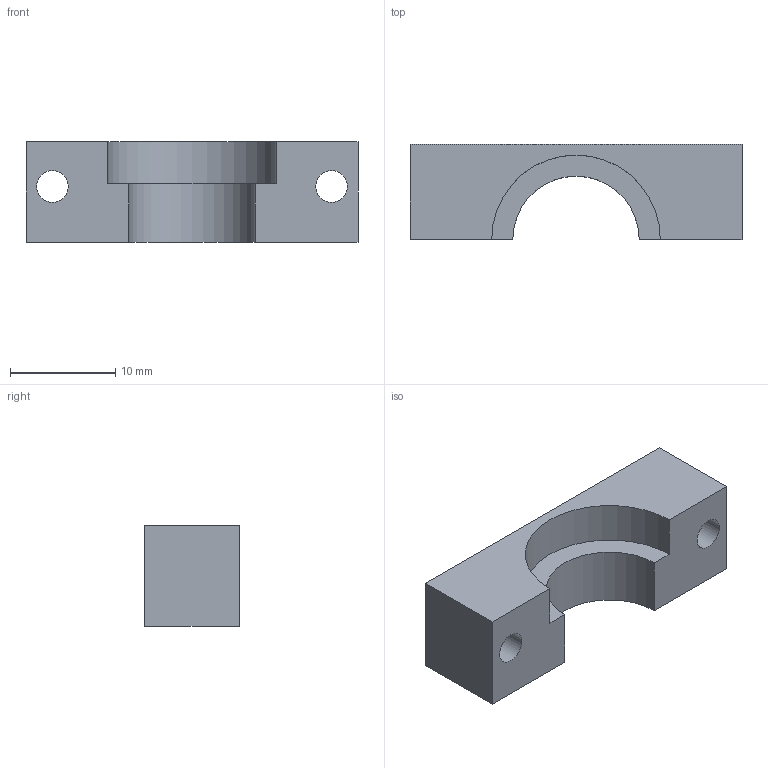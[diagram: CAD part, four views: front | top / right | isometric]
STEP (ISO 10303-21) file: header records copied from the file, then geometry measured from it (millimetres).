
FILE_DESCRIPTION(/* description */ (''),/* implementation_level */ '2;1');
FILE_NAME(/* name */ 'F:/3d-printing/_sr/# Mods/E3D Hotend Mount v41.step',/* time_stamp */ '2021-08-11T10:37:50+02:00',/* author */ (''),/* organization */ (''),/* preprocessor_version */ 'ST-DEVELOPER v18.1',/* originating_system */ 'Autodesk Translation Framework v10.9.0.1377',/* authorisation */ '');
FILE_SCHEMA (('AUTOMOTIVE_DESIGN { 1 0 10303 214 3 1 1 }'));
Length unit declared in the file: millimetre
Products named in the file (1): E3D Hotend Mount
Bounding box: 31.5 x 9 x 9.55 mm (x, y, z)
Volume: 1861.6 mm3; surface area: 1438.5 mm2
Topology: 1 solids, 1 shells, 14 faces, 34 edges, 22 vertices
Faces by surface type: plane 8, cylinder 4, cone 2
Full cylindrical faces by diameter (mm): 3 x2
Entity records: 442 total; most frequent: DIRECTION 74, CARTESIAN_POINT 71, ORIENTED_EDGE 68, EDGE_CURVE 34, AXIS2_PLACEMENT_3D 25, LINE 24, VECTOR 24, VERTEX_POINT 22
